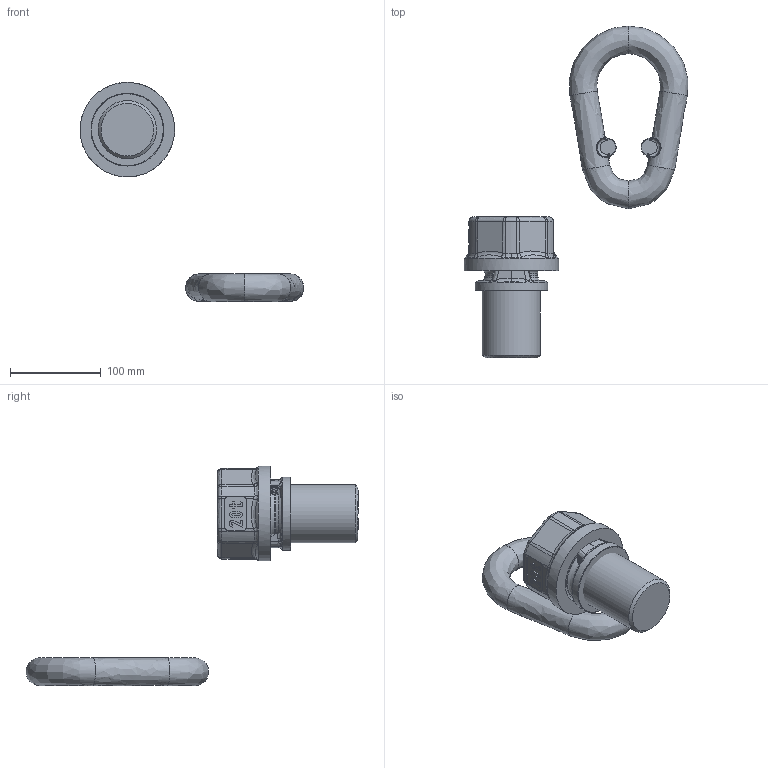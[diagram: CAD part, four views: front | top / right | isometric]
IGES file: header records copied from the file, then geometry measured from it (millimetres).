
Global section: file name: C:\ideas\IDEAS-Daten\temp\TP_Iges\TP20_M64x96_senkrecht.igs; preprocessor: I-DEAS 3D IGES Translator 11; date: 20090205.123807; units: millimetre
Bounding box: 246.07 x 365.15 x 241.11 mm (x, y, z)
Volume: 1196910.2 mm3; surface area: 121077 mm2
Topology: 3 solids, 3 shells, 668 faces, 1656 edges, 999 vertices
Faces by surface type: bspline 668
